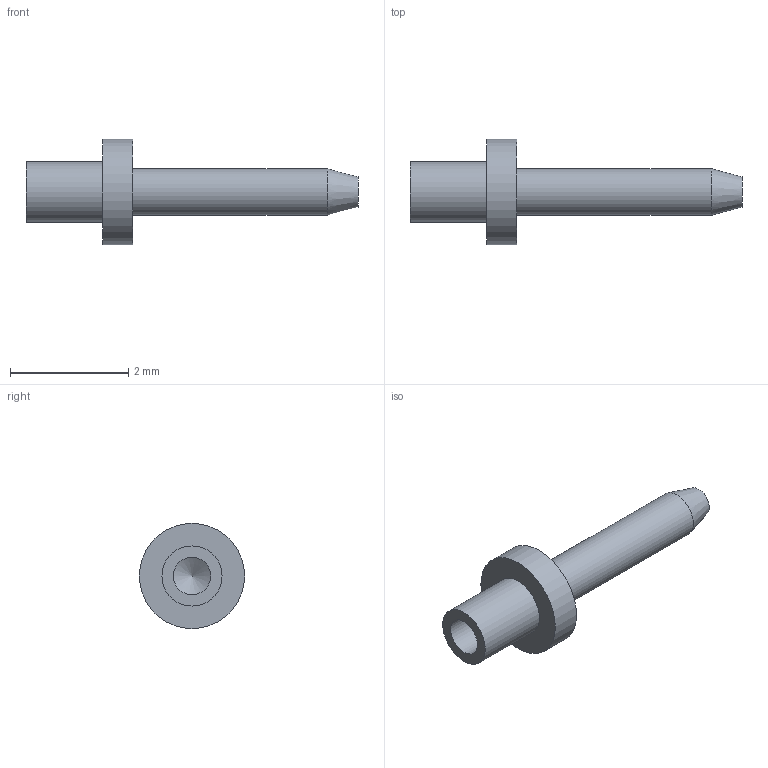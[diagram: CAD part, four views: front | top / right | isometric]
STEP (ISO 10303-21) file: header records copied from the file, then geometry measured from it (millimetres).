
FILE_DESCRIPTION(/* description */ (''),/* implementation_level */ '2;1');
FILE_NAME(/* name */ 'Z:\STEP folder\460298401.ipt.stp',/* time_stamp */ '2016-12-21T13:05:27+00:00',/* author */ ('Paul Karlsons'),/* organization */ (''),/* preprocessor_version */ 'ST-DEVELOPER v15.2',/* originating_system */ 'Autodesk Inventor 2014',/* authorisation */ '');
FILE_SCHEMA (('AUTOMOTIVE_DESIGN { 1 0 10303 214 3 1 1 }'));
Length unit declared in the file: millimetre
Products named in the file (1): 460298401
Bounding box: 5.61 x 1.78 x 1.78 mm (x, y, z)
Volume: 3.7 mm3; surface area: 23 mm2
Topology: 1 solids, 1 shells, 10 faces, 16 edges, 10 vertices
Faces by surface type: cylinder 4, plane 4, cone 2
Full cylindrical faces by diameter (mm): 0.635 x1, 0.787 x1, 1.016 x1, 1.778 x1
Entity records: 215 total; most frequent: DIRECTION 40, CARTESIAN_POINT 29, AXIS2_PLACEMENT_3D 20, EDGE_LOOP 18, ORIENTED_EDGE 18, FACE_BOUND 10, ADVANCED_FACE 10, CIRCLE 9
